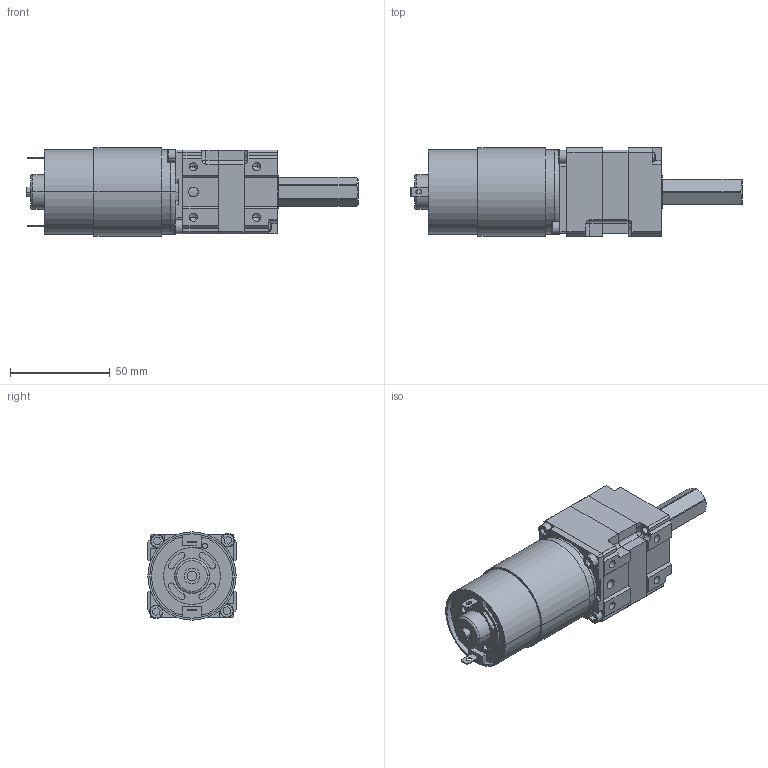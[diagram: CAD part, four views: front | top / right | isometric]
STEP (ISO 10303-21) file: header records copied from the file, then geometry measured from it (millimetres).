
FILE_DESCRIPTION (( 'STEP AP214' ), '1' );
FILE_NAME ('217-4973_1stage_775pro.STEP', '2016-10-31T21:44:41', ( '' ), ( '' ), 'SwSTEP 2.0', 'SolidWorks 2016', '' );
FILE_SCHEMA (( 'AUTOMOTIVE_DESIGN' ));
Length unit declared in the file: inch
Products named in the file (22): 217-2742-001 Rev4; 217-2822-002 Rev4; 217-4347-000 Rev1; 217-2625-025 Rev1; 217-2625-026 Rev1; 217-4649-006 Rev1_SSA0004-008BA; 217-2625-100; 217-2625-005 Rev1_Planet_Revolving_Follower01; 217-4649-001 Rev1; 832-1750-Ring-Gear-Screw_SSA0832-0500ZC; 217-4649-007 Rev1_94105A824; 217-2816-001 Rev1; 217-2625-017 Rev1_9714K61; 217-2820 Rev1_Public; 217-4973_1stage_775pro; 217-2625-003 Rev1; 217-2625-013 Rev2; 217-2625-018 Rev1_98541A410; 217-4649-002 Rev1_SSA0832-0500ZC; 217-2625-007 Rev1_Public; 217-2625-008 Rev1; 217-2625-010 Rev1
Assembly tree (29 placements, depth 4):
  217-4973_1stage_775pro
    217-2625-026 Rev1
    217-2742-001 Rev4  x2
    217-2625-017 Rev1_9714K61
    217-2625-003 Rev1
    217-2625-018 Rev1_98541A410
    832-1750-Ring-Gear-Screw_SSA0832-0500ZC  x2
    217-2625-025 Rev1
    217-4649-002 Rev1_SSA0832-0500ZC  x2
    217-4649-006 Rev1_SSA0004-008BA  x2
    217-2822-002 Rev4
    217-4347-000 Rev1
    217-2820 Rev1_Public
      217-2625-100
        217-2625-008 Rev1
        217-2625-010 Rev1  x3
        217-2625-005 Rev1_Planet_Revolving_Follower01  x3
      217-2625-007 Rev1_Public
    217-2816-001 Rev1
    217-4649-001 Rev1
    217-4649-007 Rev1_94105A824
    217-2625-013 Rev2
Bounding box: 166.6 x 44.45 x 44.3 mm (x, y, z)
Volume: 169628.8 mm3; surface area: 64076.7 mm2
Topology: 27 solids, 27 shells, 1886 faces, 4991 edges, 3199 vertices
Faces by surface type: cylinder 745, plane 419, bspline 328, cone 252, torus 138, sphere 4
Entity records: 96782 total; most frequent: CARTESIAN_POINT 55254, ORIENTED_EDGE 8670, DIRECTION 7738, EDGE_CURVE 4335, AXIS2_PLACEMENT_3D 3103, VERTEX_POINT 2793, EDGE_LOOP 1770, CIRCLE 1693
